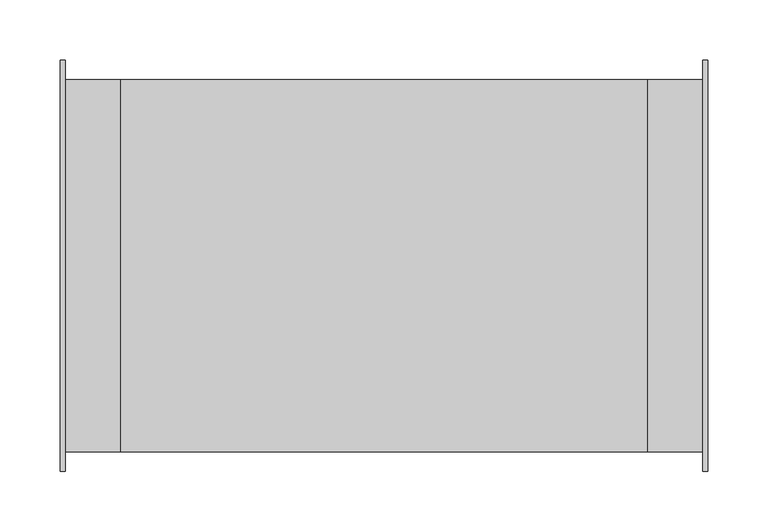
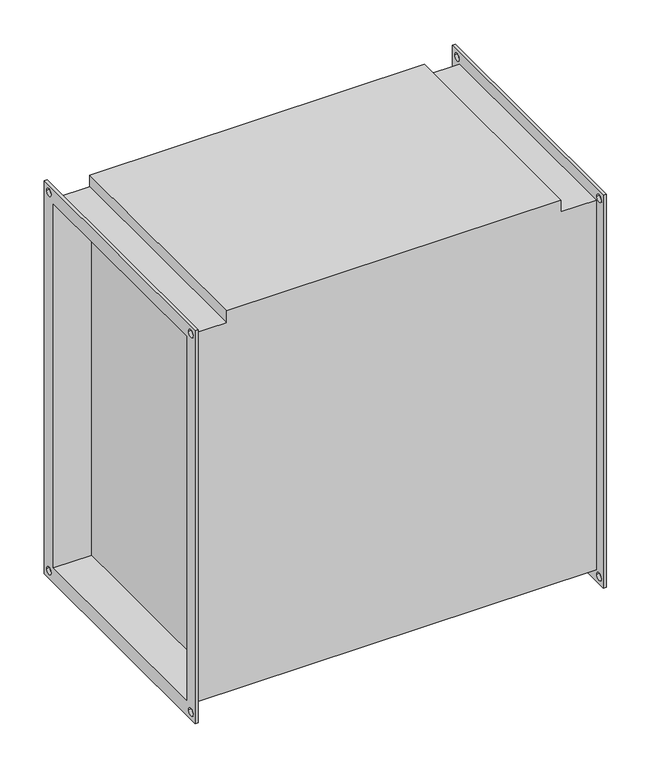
"""IFC4 building model written with IfcOpenShell, lengths in millimetres: proxy geometry, СВ_ВоздухонагревательЭлектрический_КанальныйПрямоугольный_200-1000_SPH-E : SPH-E-500x300/22,5."""

from ifc_helpers import new_model, si_unit, frame, origin, place, context, project, spatial, polyline, circle_curve, source, transform, mapped, element, save
from ifc_brep_helpers import plane_surface, revolved_surface, advanced_brep


def mechanical_equipment_96d1ef7d(model_context):
    return source(origin(), model_context, "Body", "AdvancedBrep", [
        advanced_brep(
        [(-217.5, -154.0, 254.0), (-263.5, -154.0, 254.0), (-263.5, -154.0, -254.0), (263.5, -154.0, -254.0), (263.5, -154.0, 254.0), (217.5, -154.0, 254.0), (217.5, -154.0, 270.0), (-217.5, -154.0, 270.0), (-263.5, 154.0, -254.0), (263.5, 154.0, -254.0), (-263.5, 154.0, 254.0), (-217.5, 154.0, 254.0), (-217.5, 154.0, 270.0), (217.5, 154.0, 270.0), (217.5, 154.0, 254.0), (263.5, 154.0, 254.0), (217.5, 150.0, -250.0), (217.5, 150.0, 250.0), (217.5, -150.0, 250.0), (217.5, -150.0, -250.0), (-217.5, -150.0, 250.0), (-217.5, 150.0, 250.0), (-217.5, 150.0, -250.0), (-217.5, -150.0, -250.0), (-267.5, -170.0, 270.0), (-267.5, 170.0, 270.0), (-267.5, 170.0, -270.0), (-267.5, -170.0, -270.0), (-267.5, -150.0, 250.0), (-267.5, -150.0, -250.0), (-267.5, 150.0, -250.0), (-267.5, 150.0, 250.0), (-267.5, 155.0, 260.0), (-267.5, 165.0, 260.0), (-267.5, -165.0, 260.0), (-267.5, -155.0, 260.0), (-267.5, -165.0, -260.0), (-267.5, -155.0, -260.0), (-267.5, 155.0, -260.0), (-267.5, 165.0, -260.0), (-263.5, -170.0, 270.0), (-263.5, -170.0, -270.0), (-263.5, 170.0, -270.0), (-263.5, 170.0, 270.0), (-263.5, 165.0, 260.0), (-263.5, 155.0, 260.0), (-263.5, -155.0, 260.0), (-263.5, -165.0, 260.0), (-263.5, -155.0, -260.0), (-263.5, -165.0, -260.0), (-263.5, 165.0, -260.0), (-263.5, 155.0, -260.0), (263.5, 170.0, 270.0), (263.5, 170.0, -270.0), (263.5, -170.0, -270.0), (263.5, -170.0, 270.0), (263.5, 155.0, 260.0), (263.5, 165.0, 260.0), (263.5, -165.0, 260.0), (263.5, -155.0, 260.0), (263.5, -165.0, -260.0), (263.5, -155.0, -260.0), (263.5, 155.0, -260.0), (263.5, 165.0, -260.0), (267.5, 170.0, 270.0), (267.5, -170.0, 270.0), (267.5, -170.0, -270.0), (267.5, 170.0, -270.0), (267.5, 150.0, 250.0), (267.5, 150.0, -250.0), (267.5, -150.0, -250.0), (267.5, -150.0, 250.0), (267.5, 165.0, 260.0), (267.5, 155.0, 260.0), (267.5, -155.0, 260.0), (267.5, -165.0, 260.0), (267.5, -155.0, -260.0), (267.5, -165.0, -260.0), (267.5, 165.0, -260.0), (267.5, 155.0, -260.0)],
        [
            (0, 1),
            (1, 2),
            (2, 3),
            (3, 4),
            (4, 5),
            (5, 6),
            (6, 7),
            (7, 0),
            (2, 8),
            (8, 9),
            (9, 3),
            (10, 11),
            (11, 12),
            (12, 13),
            (13, 14),
            (14, 15),
            (15, 9),
            (8, 10),
            (0, 11),
            (10, 1),
            (13, 6),
            (5, 14),
            (16, 17),
            (17, 18),
            (18, 19),
            (19, 16),
            (7, 12),
            (20, 21),
            (21, 22),
            (22, 23),
            (23, 20),
            (4, 15),
            (24, 25),
            (25, 26),
            (26, 27),
            (27, 24),
            (28, 29),
            (29, 30),
            (30, 31),
            (31, 28),
            (32, 33, circle_curve(frame((-267.5, 160.0, 260.0), z_axis=(1.0, 0.0, 0.0), x_axis=(0.0, 1.0, 0.0)), 5.0)),
            (33, 32, circle_curve(frame((-267.5, 160.0, 260.0), z_axis=(1.0, 0.0, 0.0), x_axis=(0.0, 1.0, 0.0)), 5.0)),
            (34, 35, circle_curve(frame((-267.5, -160.0, 260.0), z_axis=(1.0, 0.0, 0.0), x_axis=(0.0, 1.0, 0.0)), 5.0)),
            (35, 34, circle_curve(frame((-267.5, -160.0, 260.0), z_axis=(1.0, 0.0, 0.0), x_axis=(0.0, 1.0, 0.0)), 5.0)),
            (36, 37, circle_curve(frame((-267.5, -160.0, -260.0), z_axis=(1.0, 0.0, 0.0), x_axis=(0.0, 1.0, 0.0)), 5.0)),
            (37, 36, circle_curve(frame((-267.5, -160.0, -260.0), z_axis=(1.0, 0.0, 0.0), x_axis=(0.0, 1.0, 0.0)), 5.0)),
            (38, 39, circle_curve(frame((-267.5, 160.0, -260.0), z_axis=(1.0, 0.0, 0.0), x_axis=(0.0, 1.0, 0.0)), 5.0)),
            (39, 38, circle_curve(frame((-267.5, 160.0, -260.0), z_axis=(1.0, 0.0, 0.0), x_axis=(0.0, 1.0, 0.0)), 5.0)),
            (40, 41),
            (41, 42),
            (42, 43),
            (43, 40),
            (44, 45, circle_curve(frame((-263.5, 160.0, 260.0), z_axis=(-1.0, 0.0, 0.0), x_axis=(0.0, 1.0, 0.0)), 5.0)),
            (45, 44, circle_curve(frame((-263.5, 160.0, 260.0), z_axis=(-1.0, 0.0, 0.0), x_axis=(0.0, 1.0, 0.0)), 5.0)),
            (46, 47, circle_curve(frame((-263.5, -160.0, 260.0), z_axis=(-1.0, 0.0, 0.0), x_axis=(0.0, 1.0, 0.0)), 5.0)),
            (47, 46, circle_curve(frame((-263.5, -160.0, 260.0), z_axis=(-1.0, 0.0, 0.0), x_axis=(0.0, 1.0, 0.0)), 5.0)),
            (48, 49, circle_curve(frame((-263.5, -160.0, -260.0), z_axis=(-1.0, 0.0, 0.0), x_axis=(0.0, 1.0, 0.0)), 5.0)),
            (49, 48, circle_curve(frame((-263.5, -160.0, -260.0), z_axis=(-1.0, 0.0, 0.0), x_axis=(0.0, 1.0, 0.0)), 5.0)),
            (50, 51, circle_curve(frame((-263.5, 160.0, -260.0), z_axis=(-1.0, 0.0, 0.0), x_axis=(0.0, 1.0, 0.0)), 5.0)),
            (51, 50, circle_curve(frame((-263.5, 160.0, -260.0), z_axis=(-1.0, 0.0, 0.0), x_axis=(0.0, 1.0, 0.0)), 5.0)),
            (27, 41),
            (40, 24),
            (26, 42),
            (25, 43),
            (52, 53),
            (53, 54),
            (54, 55),
            (55, 52),
            (56, 57, circle_curve(frame((263.5, 160.0, 260.0), z_axis=(1.0, 0.0, 0.0), x_axis=(0.0, 1.0, 0.0)), 5.0)),
            (57, 56, circle_curve(frame((263.5, 160.0, 260.0), z_axis=(1.0, 0.0, 0.0), x_axis=(0.0, 1.0, 0.0)), 5.0)),
            (58, 59, circle_curve(frame((263.5, -160.0, 260.0), z_axis=(1.0, 0.0, 0.0), x_axis=(0.0, 1.0, 0.0)), 5.0)),
            (59, 58, circle_curve(frame((263.5, -160.0, 260.0), z_axis=(1.0, 0.0, 0.0), x_axis=(0.0, 1.0, 0.0)), 5.0)),
            (60, 61, circle_curve(frame((263.5, -160.0, -260.0), z_axis=(1.0, 0.0, 0.0), x_axis=(0.0, 1.0, 0.0)), 5.0)),
            (61, 60, circle_curve(frame((263.5, -160.0, -260.0), z_axis=(1.0, 0.0, 0.0), x_axis=(0.0, 1.0, 0.0)), 5.0)),
            (62, 63, circle_curve(frame((263.5, 160.0, -260.0), z_axis=(1.0, 0.0, 0.0), x_axis=(0.0, 1.0, 0.0)), 5.0)),
            (63, 62, circle_curve(frame((263.5, 160.0, -260.0), z_axis=(1.0, 0.0, 0.0), x_axis=(0.0, 1.0, 0.0)), 5.0)),
            (64, 65),
            (65, 66),
            (66, 67),
            (67, 64),
            (68, 69),
            (69, 70),
            (70, 71),
            (71, 68),
            (72, 73, circle_curve(frame((267.5, 160.0, 260.0), z_axis=(-1.0, 0.0, 0.0), x_axis=(0.0, 1.0, 0.0)), 5.0)),
            (73, 72, circle_curve(frame((267.5, 160.0, 260.0), z_axis=(-1.0, 0.0, 0.0), x_axis=(0.0, 1.0, 0.0)), 5.0)),
            (74, 75, circle_curve(frame((267.5, -160.0, 260.0), z_axis=(-1.0, 0.0, 0.0), x_axis=(0.0, 1.0, 0.0)), 5.0)),
            (75, 74, circle_curve(frame((267.5, -160.0, 260.0), z_axis=(-1.0, 0.0, 0.0), x_axis=(0.0, 1.0, 0.0)), 5.0)),
            (76, 77, circle_curve(frame((267.5, -160.0, -260.0), z_axis=(-1.0, 0.0, 0.0), x_axis=(0.0, 1.0, 0.0)), 5.0)),
            (77, 76, circle_curve(frame((267.5, -160.0, -260.0), z_axis=(-1.0, 0.0, 0.0), x_axis=(0.0, 1.0, 0.0)), 5.0)),
            (78, 79, circle_curve(frame((267.5, 160.0, -260.0), z_axis=(-1.0, 0.0, 0.0), x_axis=(0.0, 1.0, 0.0)), 5.0)),
            (79, 78, circle_curve(frame((267.5, 160.0, -260.0), z_axis=(-1.0, 0.0, 0.0), x_axis=(0.0, 1.0, 0.0)), 5.0)),
            (55, 65),
            (64, 52),
            (54, 66),
            (53, 67),
            (31, 21),
            (20, 28),
            (30, 22),
            (29, 23),
            (68, 17),
            (16, 69),
            (19, 70),
            (18, 71),
            (32, 45),
            (44, 33),
            (56, 73),
            (72, 57),
            (34, 47),
            (46, 35),
            (58, 75),
            (74, 59),
            (36, 49),
            (48, 37),
            (60, 77),
            (76, 61),
            (38, 51),
            (50, 39),
            (62, 79),
            (78, 63),
        ],
        [
            plane_surface(frame((-217.5, -154.0, 254.0), z_axis=(0.0, -1.0, 0.0), x_axis=(-1.0, 0.0, 0.0))),
            plane_surface(frame((-217.5, -154.0, -254.0), z_axis=(0.0, 0.0, -1.0), x_axis=(-1.0, 0.0, 0.0))),
            plane_surface(frame((-217.5, 154.0, -254.0), z_axis=(0.0, 1.0, 0.0), x_axis=(-1.0, 0.0, 0.0))),
            plane_surface(frame((-217.5, 154.0, 254.0), z_axis=(0.0, 0.0, 1.0), x_axis=(-1.0, 0.0, 0.0))),
            plane_surface(frame((217.5, -154.0, 270.0), z_axis=(1.0, 0.0, 0.0), x_axis=(0.0, 0.0, -1.0))),
            plane_surface(frame((-217.5, -154.0, 270.0), z_axis=(-1.0, 0.0, 0.0), x_axis=(0.0, 0.0, 1.0))),
            plane_surface(frame((217.5, 154.0, 270.0), z_axis=(0.0, 0.0, 1.0), x_axis=(-1.0, 0.0, 0.0))),
            plane_surface(frame((263.5, 154.0, 254.0), z_axis=(0.0, 0.0, 1.0), x_axis=(-1.0, 0.0, 0.0))),
            plane_surface(frame((-267.5, -170.0, 270.0), z_axis=(-1.0, 0.0, 0.0), x_axis=(0.0, 0.0, 1.0))),
            plane_surface(frame((-263.5, -170.0, 270.0), z_axis=(1.0, 0.0, 0.0), x_axis=(0.0, 0.0, -1.0))),
            plane_surface(frame((-263.5, -170.0, 270.0), z_axis=(0.0, -1.0, 0.0), x_axis=(-1.0, 0.0, 0.0))),
            plane_surface(frame((-263.5, -170.0, -270.0), z_axis=(0.0, 0.0, -1.0), x_axis=(-1.0, 0.0, 0.0))),
            plane_surface(frame((-263.5, 170.0, -270.0), z_axis=(0.0, 1.0, 0.0), x_axis=(-1.0, 0.0, 0.0))),
            plane_surface(frame((-263.5, 170.0, 270.0), z_axis=(0.0, 0.0, 1.0), x_axis=(-1.0, 0.0, 0.0))),
            plane_surface(frame((263.5, 150.0, -250.0), z_axis=(-1.0, 0.0, 0.0), x_axis=(0.0, 0.0, 1.0))),
            plane_surface(frame((267.5, 150.0, -250.0), z_axis=(1.0, 0.0, 0.0), x_axis=(0.0, 0.0, -1.0))),
            plane_surface(frame((267.5, 170.0, 270.0), z_axis=(0.0, 0.0, 1.0), x_axis=(-1.0, 0.0, 0.0))),
            plane_surface(frame((267.5, -170.0, 270.0), z_axis=(0.0, -1.0, 0.0), x_axis=(-1.0, 0.0, 0.0))),
            plane_surface(frame((267.5, -170.0, -270.0), z_axis=(0.0, 0.0, -1.0), x_axis=(-1.0, 0.0, 0.0))),
            plane_surface(frame((267.5, 170.0, -270.0), z_axis=(0.0, 1.0, 0.0), x_axis=(-1.0, 0.0, 0.0))),
            plane_surface(frame((-263.5, -150.0, 250.0), z_axis=(0.0, 0.0, -1.0), x_axis=(-1.0, 0.0, 0.0))),
            plane_surface(frame((-263.5, 150.0, 250.0), z_axis=(0.0, -1.0, 0.0), x_axis=(-1.0, 0.0, 0.0))),
            plane_surface(frame((-263.5, 150.0, -250.0), z_axis=(0.0, 0.0, 1.0), x_axis=(-1.0, 0.0, 0.0))),
            plane_surface(frame((-263.5, -150.0, -250.0), z_axis=(0.0, 1.0, 0.0), x_axis=(-1.0, 0.0, 0.0))),
            plane_surface(frame((267.5, 150.0, 250.0), z_axis=(0.0, -1.0, 0.0), x_axis=(-1.0, 0.0, 0.0))),
            plane_surface(frame((267.5, 150.0, -250.0), z_axis=(0.0, 0.0, 1.0), x_axis=(-1.0, 0.0, 0.0))),
            plane_surface(frame((267.5, -150.0, -250.0), z_axis=(0.0, 1.0, 0.0), x_axis=(-1.0, 0.0, 0.0))),
            plane_surface(frame((267.5, -150.0, 250.0), z_axis=(0.0, 0.0, -1.0), x_axis=(-1.0, 0.0, 0.0))),
            revolved_surface(polyline([(-263.5, 165.0, 260.0), (-267.5, 165.0, 260.0)]), (-267.5, 160.0, 260.0), (1.0, 0.0, 0.0)),
            revolved_surface(polyline([(267.5, 165.0, 260.0), (263.5, 165.0, 260.0)]), (-267.5, 160.0, 260.0), (1.0, 0.0, 0.0)),
            revolved_surface(polyline([(-263.5, -155.0, 260.0), (-267.5, -155.0, 260.0)]), (0.0, -160.0, 260.0), (1.0, 0.0, 0.0)),
            revolved_surface(polyline([(267.5, -155.0, 260.0), (263.5, -155.0, 260.0)]), (0.0, -160.0, 260.0), (1.0, 0.0, 0.0)),
            revolved_surface(polyline([(-263.5, -155.0, -260.0), (-267.5, -155.0, -260.0)]), (0.0, -160.0, -260.0), (1.0, 0.0, 0.0)),
            revolved_surface(polyline([(267.5, -155.0, -260.0), (263.5, -155.0, -260.0)]), (0.0, -160.0, -260.0), (1.0, 0.0, 0.0)),
            revolved_surface(polyline([(-263.5, 165.0, -260.0), (-267.5, 165.0, -260.0)]), (0.0, 160.0, -260.0), (1.0, 0.0, 0.0)),
            revolved_surface(polyline([(267.5, 165.0, -260.0), (263.5, 165.0, -260.0)]), (0.0, 160.0, -260.0), (1.0, 0.0, 0.0)),
        ],
        [
            (0, [[1, 2, 3, 4, 5, 6, 7, 8]]),
            (1, [[-3, 9, 10, 11]]),
            (2, [[12, 13, 14, 15, 16, 17, -10, 18]]),
            (3, [[-1, 19, -12, 20]]),
            (4, [[21, -6, 22, -15]]),
            (4, [[23, 24, 25, 26]]),
            (5, [[27, -13, -19, -8]]),
            (5, [[28, 29, 30, 31]]),
            (6, [[-21, -14, -27, -7]]),
            (7, [[-5, 32, -16, -22]]),
            (8, [[33, 34, 35, 36], [37, 38, 39, 40], [41, 42], [43, 44], [45, 46], [47, 48]]),
            (9, [[49, 50, 51, 52], [-2, -20, -18, -9], [53, 54], [55, 56], [57, 58], [59, 60]]),
            (10, [[-36, 61, -49, 62]]),
            (11, [[-35, 63, -50, -61]]),
            (12, [[-34, 64, -51, -63]]),
            (13, [[-33, -62, -52, -64]]),
            (14, [[65, 66, 67, 68], [-4, -11, -17, -32], [69, 70], [71, 72], [73, 74], [75, 76]]),
            (15, [[77, 78, 79, 80], [81, 82, 83, 84], [85, 86], [87, 88], [89, 90], [91, 92]]),
            (16, [[-68, 93, -77, 94]]),
            (17, [[-67, 95, -78, -93]]),
            (18, [[-66, 96, -79, -95]]),
            (19, [[-65, -94, -80, -96]]),
            (20, [[-40, 97, -28, 98]]),
            (21, [[-39, 99, -29, -97]]),
            (22, [[-38, 100, -30, -99]]),
            (23, [[-37, -98, -31, -100]]),
            (24, [[-81, 101, -23, 102]]),
            (25, [[-82, -102, -26, 103]]),
            (26, [[-83, -103, -25, 104]]),
            (27, [[-101, -84, -104, -24]]),
            (28, [[105, -53, 106, -41]]),
            (29, [[107, -85, 108, -69]]),
            (28, [[-105, -42, -106, -54]]),
            (29, [[-107, -70, -108, -86]]),
            (30, [[109, -55, 110, -43]]),
            (31, [[111, -87, 112, -71]]),
            (30, [[-109, -44, -110, -56]]),
            (31, [[-111, -72, -112, -88]]),
            (32, [[113, -57, 114, -45]]),
            (33, [[115, -89, 116, -73]]),
            (32, [[-113, -46, -114, -58]]),
            (33, [[-115, -74, -116, -90]]),
            (34, [[117, -59, 118, -47]]),
            (35, [[119, -91, 120, -75]]),
            (34, [[-117, -48, -118, -60]]),
            (35, [[-119, -76, -120, -92]]),
        ],
    ),
    ])


if __name__ == "__main__":
    model = new_model("IFC4")
    model_context = context("Model", 3, world=origin())
    ifc_project = project(units=[si_unit("LENGTHUNIT", "METRE", prefix="MILLI")], contexts=[model_context])
    site = spatial("IfcSite", under=ifc_project)
    building = spatial("IfcBuilding", under=site)
    placement = place(None, origin())
    mechanical_equipment_shape = mechanical_equipment_96d1ef7d(model_context)
    element("IfcBuildingElementProxy", 1, Name="СВ_ВоздухонагревательЭлектрический_КанальныйПрямоугольный_200-1000_SPH-E : SPH-E-500x300/22,5", ObjectType="СВ_ВоздухонагревательЭлектрический_КанальныйПрямоугольный_200-1000_SPH-E : SPH-E-500x300/22,5", at=placement, inside=building, context=model_context, shape_type="MappedRepresentation", body=[
        mapped(mechanical_equipment_shape, transform((0.0, 0.0, 0.0), x_axis=(1.0, 0.0, 0.0), y_axis=(0.0, 1.0, 0.0), z_axis=(0.0, 0.0, 1.0))),
    ])
    save(model, "model.ifc")
